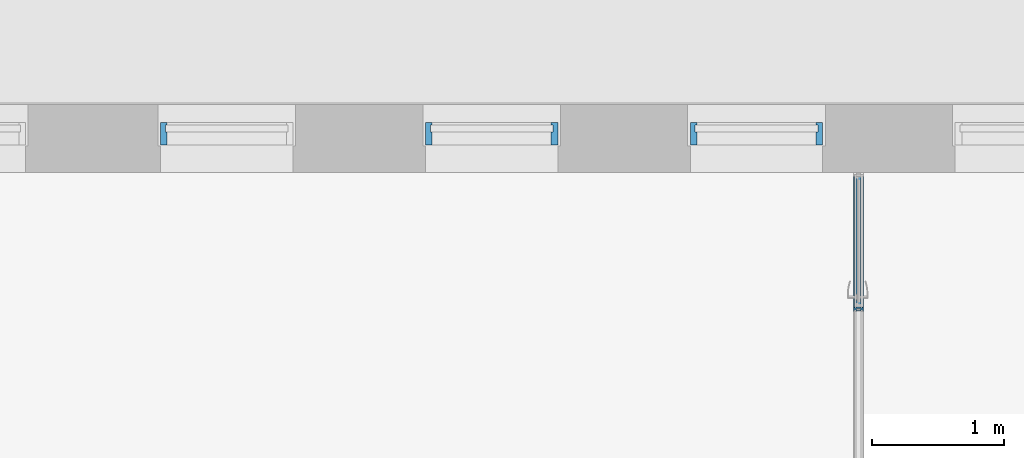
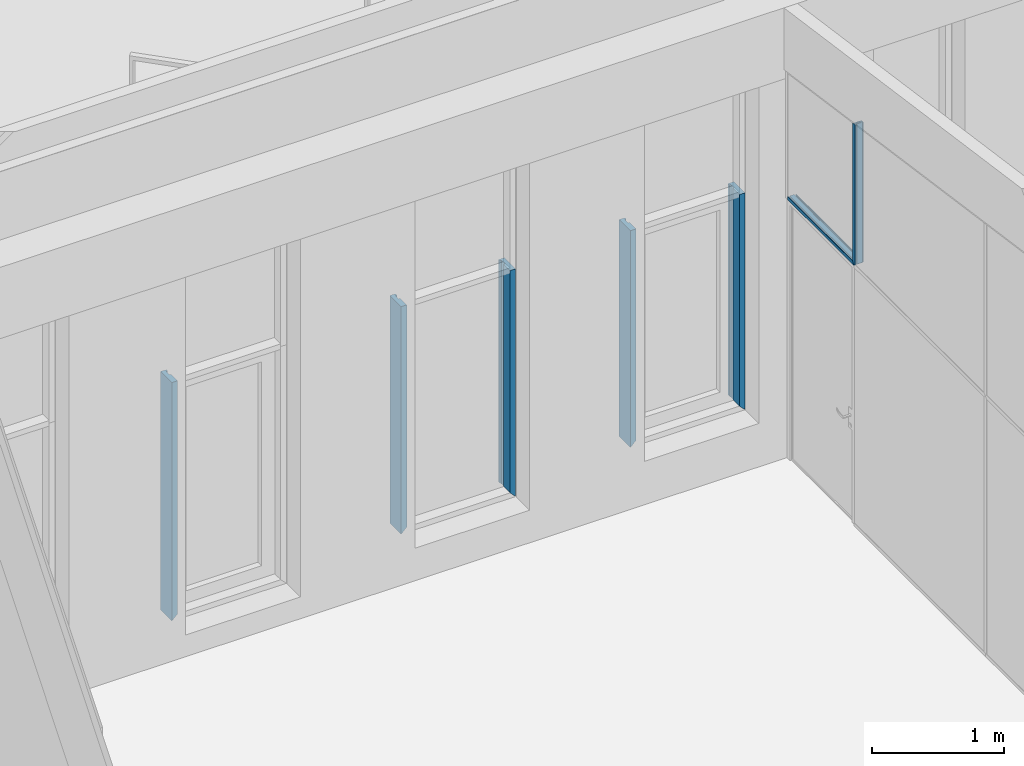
# One storey, part 77 of 246: 7 members, 4 elements without a shape of their own.
"""IFC2X3 building model written with IfcOpenShell, lengths in millimetres."""

from ifc_helpers import new_model, entity, si_unit, converted_unit, derived_unit, money_unit, direction, frame, origin_with_axes, place, context, subcontext, project, spatial, faceted_brep, material, material_list, type_object, element, aggregate, save


model = new_model("IFC2X3")

# Units and contexts
model_context = context("Model", 3, precision=0.01, world=origin_with_axes(), true_north=direction((0.0, 1.0)))
body_context = subcontext(model_context, "Body", "Model", "MODEL_VIEW")
ifc_project = project(units=[si_unit("LENGTHUNIT", "METRE", prefix="MILLI"), si_unit("AREAUNIT", "SQUARE_METRE"), si_unit("VOLUMEUNIT", "CUBIC_METRE"), converted_unit("PLANEANGLEUNIT", "DEGREE", entity("IfcPlaneAngleMeasure", 0.0174532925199), si_unit("PLANEANGLEUNIT", "RADIAN"), dimensions=[0, 0, 0, 0, 0, 0, 0]), si_unit("SOLIDANGLEUNIT", "STERADIAN"), money_unit("EUR"), converted_unit("TIMEUNIT", "Year", entity("IfcTimeMeasure", 31556926.0), si_unit("TIMEUNIT", "SECOND"), dimensions=[0, 0, 1, 0, 0, 0, 0]), si_unit("MASSUNIT", "GRAM", prefix="KILO"), si_unit("THERMODYNAMICTEMPERATUREUNIT", "DEGREE_CELSIUS"), si_unit("LUMINOUSINTENSITYUNIT", "LUMEN"), si_unit("ENERGYUNIT", "JOULE", prefix="MEGA"), derived_unit("THERMALCONDUCTANCEUNIT", [(si_unit("POWERUNIT", "WATT"), 1), (si_unit("LENGTHUNIT", "METRE"), -1), (si_unit("THERMODYNAMICTEMPERATUREUNIT", "KELVIN"), -1)]), derived_unit("SPECIFICHEATCAPACITYUNIT", [(si_unit("ENERGYUNIT", "JOULE"), 1), (si_unit("MASSUNIT", "GRAM", prefix="KILO"), -1), (si_unit("THERMODYNAMICTEMPERATUREUNIT", "KELVIN"), -1)]), derived_unit("MASSDENSITYUNIT", [(si_unit("MASSUNIT", "GRAM", prefix="KILO"), 1), (si_unit("VOLUMEUNIT", "CUBIC_METRE"), -1)])], contexts=[model_context])

# Site, building, storey
site_placement = place(None, origin_with_axes())
site = spatial("IfcSite", under=ifc_project, at=site_placement, Name="L.Koidula tn 11b", CompositionType="ELEMENT")
building_placement = place(site_placement, origin_with_axes())
building = spatial("IfcBuilding", under=site, at=building_placement, Name="Rakvere Riigigümnaasium", CompositionType="ELEMENT")
storey_placement = place(building_placement, origin_with_axes())
storey = spatial("IfcBuildingStorey", under=building, at=storey_placement, Name="1.korrus 0,00", CompositionType="ELEMENT", Elevation=0.0)

# Curtain wall, members
curtain_wall_type = type_object("IfcCurtainWallType", Name="Curtain Wall Type", PredefinedType="NOTDEFINED")
curtain_wall_1_placement = place(storey_placement, frame((32069.763958, 71934.4519938, 400.0), z_axis=(0.0, 0.0, 1.0), x_axis=(1.0, 0.0, 0.0)))
curtain_wall_1 = element("IfcCurtainWall", 1, at=curtain_wall_1_placement, inside=storey, type_object=curtain_wall_type, Name="KLF-08-06")
ifc_material_1 = material(Name="Alumiiniumprofiil (RAL 7021)")
member_type_1 = type_object("IfcMemberType", Name="Boundary Frame 50 x 170", PredefinedType="MULLION")
member_1_placement = place(curtain_wall_1_placement, frame((-500.007691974, 0.0, 2000.00007713), z_axis=(0.0, 0.0, -1.0), x_axis=(1.0, 0.0, 0.0)))
member_1 = element("IfcMember", 2, at=member_1_placement, type_object=member_type_1, material=ifc_material_1, Name="KLF-08-59-Profiilid", ObjectType="MULLION", context=body_context, shape_type="Brep", body=[
    faceted_brep([(37.0, 26.0, 1963.00007713), (50.0, 26.0, 1950.00007713), (50.0, 124.0, 1950.00007713), (0.0, 124.0, 2000.00007713), (0.0, -46.0, 2000.00007713), (50.0, -46.0, 1950.00007713), (50.0, -26.0, 1950.00007713), (37.0, -26.0, 1963.00007713), (37.0, 26.0, -1.78111747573e-07), (50.0, 26.0, -1.78111747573e-07), (50.0, 124.0, -1.78111747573e-07), (0.0, 124.0, -1.78111747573e-07), (0.0, -46.0, -1.78111747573e-07), (50.0, -46.0, -1.78111747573e-07), (50.0, -26.0, -1.78111747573e-07), (37.0, -26.0, -1.78111747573e-07)], [[[0, 1, 2, 3, 4, 5, 6, 7]], [[0, 8, 9, 1]], [[9, 10, 2, 1]], [[10, 11, 3, 2]], [[11, 12, 4, 3]], [[12, 13, 5, 4]], [[6, 5, 13, 14]], [[14, 15, 7, 6]], [[7, 15, 8, 0]], [[8, 15, 14, 13, 12, 11, 10, 9]]]),
])
member_2_placement = place(curtain_wall_1_placement, frame((500.007713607, 0.0, 0.0), z_axis=(-8.89320582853e-09, 0.0, 1.0), x_axis=(-1.0, 0.0, -8.89320582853e-09)))
member_2 = element("IfcMember", 3, at=member_2_placement, type_object=member_type_1, material=ifc_material_1, Name="KLF-08-61-Profiilid", ObjectType="MULLION", context=body_context, shape_type="Brep", body=[
    faceted_brep([(36.9999822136, 26.0, 2000.00007768), (49.9999822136, 26.0, 2000.00007779), (49.9999822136, 124.0, 2000.00007779), (-1.7786412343e-05, 124.0, 2000.00007735), (-1.7786412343e-05, -46.0, 2000.00007735), (49.9999822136, -46.0, 2000.00007779), (49.9999822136, -26.0, 2000.00007779), (36.9999822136, -26.0, 2000.00007768), (36.999999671, 26.0, 37.0000006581), (49.9999995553, 26.0, 50.0000008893), (49.9999995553, 124.0, 50.0000008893), (0.0, 124.0, 0.0), (0.0, -46.0, 0.0), (49.9999995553, -46.0, 50.0000008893), (49.9999995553, -26.0, 50.0000008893), (36.999999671, -26.0, 37.0000006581)], [[[0, 1, 2, 3, 4, 5, 6, 7]], [[0, 8, 9, 1]], [[9, 10, 2, 1]], [[2, 10, 11, 3]], [[3, 11, 12, 4]], [[4, 12, 13, 5]], [[6, 5, 13, 14]], [[14, 15, 7, 6]], [[7, 15, 8, 0]], [[8, 15, 14, 13, 12, 11, 10, 9]]]),
])
aggregate(curtain_wall_1, [member_1, member_2])

# Curtain wall, member
curtain_wall_2_placement = place(storey_placement, frame((28069.5354311, 71934.4519938, 200.0), z_axis=(0.0, 0.0, 1.0), x_axis=(1.0, 0.0, 0.0)))
curtain_wall_2 = element("IfcCurtainWall", 4, at=curtain_wall_2_placement, inside=storey, type_object=curtain_wall_type, Name="KLF-08-04")
member_3_placement = place(curtain_wall_2_placement, frame((-500.000022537, 0.0, 0.0), z_axis=(0.0, 0.0, 1.0), x_axis=(-1.0, 0.0, 0.0)))
member_3 = element("IfcMember", 5, at=member_3_placement, type_object=member_type_1, material=ifc_material_1, Name="KLF-08-48-Profiilid", ObjectType="MULLION", context=body_context, shape_type="Brep", body=[
    faceted_brep([(-37.0, 26.0, 2200.00007713), (-37.0, -26.0, 2200.00007713), (-50.0, -26.0, 2200.00007713), (-50.0, -46.0, 2200.00007713), (0.0, -46.0, 2200.00007713), (0.0, 124.0, 2200.00007713), (-50.0, 124.0, 2200.00007713), (-50.0, 26.0, 2200.00007713), (-37.0, 26.0, 37.0), (-37.0, -26.0, 37.0), (-50.0, -26.0, 50.0), (-50.0, -46.0, 50.0), (0.0, -46.0, 0.0), (0.0, 124.0, 0.0), (-50.0, 124.0, 50.0), (-50.0, 26.0, 50.0)], [[[0, 1, 2, 3, 4, 5, 6, 7]], [[1, 0, 8, 9]], [[10, 2, 1, 9]], [[2, 10, 11, 3]], [[4, 3, 11, 12]], [[5, 4, 12, 13]], [[6, 5, 13, 14]], [[15, 7, 6, 14]], [[0, 7, 15, 8]], [[8, 15, 14, 13, 12, 11, 10, 9]]]),
])
aggregate(curtain_wall_2, [member_3])

# Curtain wall, members
curtain_wall_3_placement = place(storey_placement, frame((30069.5242165, 71934.4519938, 300.0), z_axis=(0.0, 0.0, 1.0), x_axis=(1.0, 0.0, 0.0)))
curtain_wall_3 = element("IfcCurtainWall", 6, at=curtain_wall_3_placement, inside=storey, type_object=curtain_wall_type, Name="KLF-08-05")
member_4_placement = place(curtain_wall_3_placement, frame((-499.988788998, 0.0, 0.0), z_axis=(0.0, 0.0, 1.0), x_axis=(-1.0, 0.0, 0.0)))
member_4 = element("IfcMember", 7, at=member_4_placement, type_object=member_type_1, material=ifc_material_1, Name="KLF-08-85-Profiilid", ObjectType="MULLION", context=body_context, shape_type="Brep", body=[
    faceted_brep([(-37.0, 26.0, 2100.00007713), (-37.0, -26.0, 2100.00007713), (-50.0, -26.0, 2100.00007713), (-50.0, -46.0, 2100.00007713), (0.0, -46.0, 2100.00007713), (0.0, 124.0, 2100.00007713), (-50.0, 124.0, 2100.00007713), (-50.0, 26.0, 2100.00007713), (-37.0, 26.0, 37.0), (-37.0, -26.0, 37.0), (-50.0, -26.0, 50.0), (-50.0, -46.0, 50.0), (0.0, -46.0, 0.0), (0.0, 124.0, 0.0), (-50.0, 124.0, 50.0), (-50.0, 26.0, 50.0)], [[[0, 1, 2, 3, 4, 5, 6, 7]], [[1, 0, 8, 9]], [[10, 2, 1, 9]], [[2, 10, 11, 3]], [[4, 3, 11, 12]], [[5, 4, 12, 13]], [[6, 5, 13, 14]], [[15, 7, 6, 14]], [[0, 7, 15, 8]], [[8, 15, 14, 13, 12, 11, 10, 9]]]),
])
member_5_placement = place(curtain_wall_3_placement, frame((499.98878204, 0.0, 0.0), z_axis=(3.31341122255e-09, 0.0, 1.0), x_axis=(-1.0, 0.0, 3.31341122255e-09)))
member_5 = element("IfcMember", 8, at=member_5_placement, type_object=member_type_1, material=ifc_material_1, Name="KLF-08-81-Profiilid", ObjectType="MULLION", context=body_context, shape_type="Brep", body=[
    faceted_brep([(37.0000069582, 26.0, 2100.00007709), (50.0000069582, 26.0, 2100.00007704), (50.0000069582, 124.0, 2100.00007704), (6.9581638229e-06, 124.0, 2100.00007721), (6.9581638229e-06, -46.0, 2100.00007721), (50.0000069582, -46.0, 2100.00007704), (50.0000069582, -26.0, 2100.00007704), (37.0000069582, -26.0, 2100.00007709), (37.0000001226, 26.0, 36.9999997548), (50.0000001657, 26.0, 49.9999996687), (50.0000001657, 124.0, 49.9999996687), (0.0, 124.0, 0.0), (0.0, -46.0, 0.0), (50.0000001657, -46.0, 49.9999996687), (50.0000001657, -26.0, 49.9999996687), (37.0000001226, -26.0, 36.9999997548)], [[[0, 1, 2, 3, 4, 5, 6, 7]], [[0, 8, 9, 1]], [[9, 10, 2, 1]], [[2, 10, 11, 3]], [[3, 11, 12, 4]], [[4, 12, 13, 5]], [[6, 5, 13, 14]], [[14, 15, 7, 6]], [[7, 15, 8, 0]], [[8, 15, 14, 13, 12, 11, 10, 9]]]),
])
aggregate(curtain_wall_3, [member_4, member_5])

curtain_wall_4_placement = place(storey_placement, frame((32835.0202258, 67589.2016838, 0.0), z_axis=(0.0, 0.0, 1.0), x_axis=(1.0, 0.0, 0.0)))
curtain_wall_4 = element("IfcCurtainWall", 9, at=curtain_wall_4_placement, inside=storey, type_object=curtain_wall_type, Name="SKLF-02")
ifc_material_2 = material(Name="Klaasvill")
ifc_material_3 = material(Name="Teras RAL7012")
ifc_material_list = material_list([ifc_material_2, ifc_material_3])
member_type_2 = type_object("IfcMemberType", Name="Siseklaasfassaad-Servaprofiil-Doubleline30 30 x 42", PredefinedType="MULLION")
member_6_placement = place(curtain_wall_4_placement, frame((0.0, 4011.25, 2400.0), z_axis=(0.0, -1.0, 0.0), x_axis=(0.0, 0.0, 1.0)))
member_6 = element("IfcMember", 10, at=member_6_placement, type_object=member_type_2, material=ifc_material_list, Name="Frame-Siseklaasf-111", ObjectType="MULLION", context=body_context, shape_type="Brep", body=[
    faceted_brep([(13.8499999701, 15.000000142, 30.0000193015), (13.8499999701, 15.000000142, 1022.15166282), (7.49999990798, 15.000000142, 1025.74999796), (7.49999990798, 15.000000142, 30.0000193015), (13.8499999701, 29.0161444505, 30.0000193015), (13.8499999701, 29.0161444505, 1022.15166282), (7.49999990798, 29.0161444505, 1025.74999796), (7.49999990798, 29.0161444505, 30.0000193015)], [[[0, 1, 2, 3]], [[4, 5, 1, 0]], [[2, 1, 5, 6]], [[3, 2, 6, 7]], [[3, 7, 4, 0]], [[7, 6, 5, 4]]]),
    faceted_brep([(25.004489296, 27.0307503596, 30.0000193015), (25.004489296, 27.0307503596, 1015.83078243), (24.987414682, 29.0161444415, 1015.84045805), (24.987414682, 29.0161444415, 30.0000193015), (25.742237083, 26.2930025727, 30.0000193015), (25.742237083, 26.2930025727, 1015.41272514), (26.7500193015, 26.0229681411, 1014.84164827), (27.75780152, 26.2930025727, 1014.2705714), (28.4955493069, 27.0307503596, 1013.85251411), (28.7655837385, 28.0385325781, 1013.69949453), (28.5126239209, 29.0161444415, 1013.8428385), (28.5126239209, 29.0161444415, 30.0000193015), (28.7655837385, 28.0385325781, 30.0000193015), (28.4955493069, 27.0307503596, 30.0000193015), (27.75780152, 26.2930025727, 30.0000193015), (26.7500193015, 26.0229681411, 30.0000193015)], [[[0, 1, 2, 3]], [[4, 5, 1, 0]], [[2, 1, 5, 6, 7, 8, 9, 10]], [[3, 2, 10, 11]], [[3, 11, 12, 13, 14, 15, 4, 0]], [[15, 6, 5, 4]], [[14, 7, 6, 15]], [[13, 8, 7, 14]], [[12, 9, 8, 13]], [[11, 10, 9, 12]]]),
    faceted_brep([(7.49999990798, -39.0161445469, 30.0000193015), (7.49999990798, -39.0161445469, 1025.74999796), (7.49999990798, -24.9999997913, 1025.74999796), (7.49999990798, -24.9999997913, 30.0000193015), (13.8499999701, -39.0161445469, 30.0000193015), (13.8499999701, -39.0161445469, 1022.15166282), (13.8499999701, -24.9999997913, 1022.15166282), (13.8499999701, -24.9999997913, 30.0000193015)], [[[0, 1, 2, 3]], [[4, 5, 1, 0]], [[2, 1, 5, 6]], [[3, 2, 6, 7]], [[3, 7, 4, 0]], [[7, 6, 5, 4]]]),
    faceted_brep([(24.987414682, -39.0161444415, 30.0000193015), (24.987414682, -39.0161444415, 1015.84045805), (25.004489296, -37.0307503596, 1015.83078243), (25.004489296, -37.0307503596, 30.0000193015), (28.5126239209, -39.0161444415, 30.0000193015), (28.5126239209, -39.0161444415, 1013.8428385), (28.7655837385, -38.0385325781, 1013.69949453), (28.4955493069, -37.0307503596, 1013.85251411), (27.75780152, -36.2930025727, 1014.2705714), (26.7500193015, -36.0229681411, 1014.84164827), (25.742237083, -36.2930025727, 1015.41272514), (25.742237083, -36.2930025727, 30.0000193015), (26.7500193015, -36.0229681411, 30.0000193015), (27.75780152, -36.2930025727, 30.0000193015), (28.4955493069, -37.0307503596, 30.0000193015), (28.7655837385, -38.0385325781, 30.0000193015)], [[[0, 1, 2, 3]], [[4, 5, 1, 0]], [[2, 1, 5, 6, 7, 8, 9, 10]], [[3, 2, 10, 11]], [[3, 11, 12, 13, 14, 15, 4, 0]], [[15, 6, 5, 4]], [[14, 7, 6, 15]], [[13, 8, 7, 14]], [[12, 9, 8, 13]], [[11, 10, 9, 12]]]),
    faceted_brep([(29.5999996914, -22.0000000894, 30.0000193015), (29.5999996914, -22.0000000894, 1013.22665859), (0.0, -22.0000000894, 1030.0), (0.0, -22.0000000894, 30.0000193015), (29.5999996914, 12.0000000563, 30.0000193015), (29.5999996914, 12.0000000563, 1013.22665859), (0.0, 12.0000000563, 1030.0), (1.9999999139, 10.0000001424, 1028.86666616), (18.7999996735, 10.0000001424, 1019.34666161), (18.7999996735, -20.0000001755, 1019.34666161), (1.9999999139, -20.0000001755, 1028.86666616), (0.0, 12.0000000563, 30.0000193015), (1.9999999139, 10.0000001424, 30.0000193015), (1.9999999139, -20.0000001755, 30.0000193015), (18.7999996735, -20.0000001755, 30.0000193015), (18.7999996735, 10.0000001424, 30.0000193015)], [[[0, 1, 2, 3]], [[4, 5, 1, 0]], [[2, 1, 5, 6], [7, 8, 9, 10]], [[3, 2, 6, 11]], [[3, 11, 4, 0], [12, 13, 14, 15]], [[11, 6, 5, 4]], [[15, 8, 7, 12]], [[14, 9, 8, 15]], [[13, 10, 9, 14]], [[12, 7, 10, 13]]]),
    faceted_brep([(29.5999996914, 12.0000000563, 30.0000193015), (29.5999996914, 12.0000000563, 1013.22665859), (0.0, 12.0, 1030.0), (0.0, 12.0, 30.0000193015), (30.0000193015, 12.0, 30.0000193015), (30.0000193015, 12.0, 1012.9999807), (30.0000193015, 15.0, 1012.9999807), (13.8499999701, 15.000000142, 1022.15166282), (7.49999999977, 15.0, 1025.74999791), (7.49999999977, 29.0161444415, 1025.74999791), (13.8499999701, 29.0161444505, 1022.15166282), (24.987414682, 29.0161444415, 1015.84045805), (28.5126239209, 29.0161444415, 1013.8428385), (30.0000193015, 29.0161444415, 1012.9999807), (30.0000193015, 32.0, 1012.9999807), (0.0, 32.0, 1030.0), (0.0, 32.0, 30.0000193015), (30.0000193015, 32.0, 30.0000193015), (30.0000193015, 29.0161444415, 30.0000193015), (28.5126239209, 29.0161444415, 30.0000193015), (24.987414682, 29.0161444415, 30.0000193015), (13.8499999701, 29.0161444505, 30.0000193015), (7.49999999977, 29.0161444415, 30.0000193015), (7.49999999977, 15.0, 30.0000193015), (13.8499999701, 15.000000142, 30.0000193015), (30.0000193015, 15.0, 30.0000193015)], [[[0, 1, 2, 3]], [[4, 5, 1, 0]], [[2, 1, 5, 6, 7, 8, 9, 10, 11, 12, 13, 14, 15]], [[3, 2, 15, 16]], [[3, 16, 17, 18, 19, 20, 21, 22, 23, 24, 25, 4, 0]], [[25, 6, 5, 4]], [[24, 7, 6, 25]], [[23, 8, 7, 24]], [[22, 9, 8, 23]], [[21, 10, 9, 22]], [[20, 11, 10, 21]], [[19, 12, 11, 20]], [[18, 13, 12, 19]], [[17, 14, 13, 18]], [[16, 15, 14, 17]]]),
    faceted_brep([(0.0, -42.0, 30.0000193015), (0.0, -42.0, 1030.0), (0.0, -22.0, 1030.0), (0.0, -22.0, 30.0000193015), (30.0000193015, -42.0, 30.0000193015), (30.0000193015, -42.0, 1012.9999807), (30.0000193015, -39.0161444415, 1012.9999807), (28.5126239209, -39.0161444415, 1013.8428385), (24.987414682, -39.0161444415, 1015.84045805), (13.8499999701, -39.0161445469, 1022.15166282), (7.49999999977, -39.0161444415, 1025.74999791), (7.49999999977, -25.0, 1025.74999791), (13.8499999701, -24.9999997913, 1022.15166282), (30.0000193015, -25.0, 1012.9999807), (30.0000193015, -22.0, 1012.9999807), (29.5999996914, -22.0000000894, 1013.22665859), (29.5999996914, -22.0000000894, 30.0000193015), (30.0000193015, -22.0, 30.0000193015), (30.0000193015, -25.0, 30.0000193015), (13.8499999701, -24.9999997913, 30.0000193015), (7.49999999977, -25.0, 30.0000193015), (7.49999999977, -39.0161444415, 30.0000193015), (13.8499999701, -39.0161445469, 30.0000193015), (24.987414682, -39.0161444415, 30.0000193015), (28.5126239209, -39.0161444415, 30.0000193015), (30.0000193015, -39.0161444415, 30.0000193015)], [[[0, 1, 2, 3]], [[4, 5, 1, 0]], [[2, 1, 5, 6, 7, 8, 9, 10, 11, 12, 13, 14, 15]], [[3, 2, 15, 16]], [[3, 16, 17, 18, 19, 20, 21, 22, 23, 24, 25, 4, 0]], [[25, 6, 5, 4]], [[24, 7, 6, 25]], [[23, 8, 7, 24]], [[22, 9, 8, 23]], [[21, 10, 9, 22]], [[20, 11, 10, 21]], [[19, 12, 11, 20]], [[18, 13, 12, 19]], [[17, 14, 13, 18]], [[16, 15, 14, 17]]]),
])
member_type_3 = type_object("IfcMemberType", Name="Siseklaasfassaad-Vaheprofiil-Doubleline30 34 x 42", PredefinedType="MULLION")
member_7_placement = place(curtain_wall_4_placement, frame((0.0, 2981.25, 2400.0), z_axis=(0.0, 0.0, 1.0), x_axis=(0.0, 1.0, 0.0)))
member_7 = element("IfcMember", 11, at=member_7_placement, type_object=member_type_3, material=ifc_material_list, Name="Frame-Siseklaasf-226", ObjectType="MULLION", context=body_context, shape_type="Brep", body=[
    faceted_brep([(15.4955493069, 27.0307503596, 27.3450735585), (15.7655837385, 28.0385325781, 27.8216046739), (15.7655837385, 28.0385325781, 1304.1102888), (15.4955493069, 27.0307503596, 1304.14872941), (15.5126239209, 29.0161444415, 27.3752052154), (14.75780152, 26.2930025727, 26.0431663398), (13.7500193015, 26.0229681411, 24.2647280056), (12.742237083, 26.2930025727, 22.4862896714), (12.004489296, 27.0307503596, 21.1843824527), (11.987414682, 29.0161444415, 21.1542507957), (15.5126239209, 29.0161444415, 1304.14629876), (11.987414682, 29.0161444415, 1304.64812813), (12.004489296, 27.0307503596, 1304.64569749), (12.742237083, 26.2930025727, 1304.54067577), (13.7500193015, 26.0229681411, 1304.39721345), (14.75780152, 26.2930025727, 1304.25375112)], [[[0, 1, 2, 3]], [[4, 1, 0, 5, 6, 7, 8, 9]], [[1, 4, 10, 2]], [[3, 2, 10, 11, 12, 13, 14, 15]], [[5, 0, 3, 15]], [[6, 5, 15, 14]], [[7, 6, 14, 13]], [[8, 7, 13, 12]], [[9, 8, 12, 11]], [[4, 9, 11, 10]]]),
    faceted_brep([(11.987414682, -39.0161444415, 21.1542507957), (15.5126239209, -39.0161444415, 27.3752052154), (15.5126239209, -39.0161444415, 1304.14629876), (11.987414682, -39.0161444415, 1304.64812813), (15.4955493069, -37.0307503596, 27.3450735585), (11.7344548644, -38.0385325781, 20.7078513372), (12.004489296, -37.0307503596, 21.1843824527), (12.742237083, -36.2930025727, 22.4862896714), (13.7500193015, -36.0229681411, 24.2647280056), (14.75780152, -36.2930025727, 26.0431663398), (15.4955493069, -37.0307503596, 1304.14872941), (12.004489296, -37.0307503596, 1304.64569749), (11.7344548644, -38.0385325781, 1304.6841381), (14.75780152, -36.2930025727, 1304.25375112), (13.7500193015, -36.0229681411, 1304.39721345), (12.742237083, -36.2930025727, 1304.54067577)], [[[0, 1, 2, 3]], [[4, 1, 0, 5, 6, 7, 8, 9]], [[1, 4, 10, 2]], [[11, 12, 3, 2, 10, 13, 14, 15]], [[5, 0, 3, 12]], [[6, 5, 12, 11]], [[7, 6, 11, 15]], [[8, 7, 15, 14]], [[9, 8, 14, 13]], [[4, 9, 13, 10]]]),
    faceted_brep([(-12.004489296, 27.0307503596, 12.004489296), (-11.7344548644, 28.0385325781, 11.7344548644), (-11.7344548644, 28.0385325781, 1308.02504281), (-12.004489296, 27.0307503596, 1308.06348343), (-11.987414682, 29.0161444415, 11.987414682), (-12.742237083, 26.2930025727, 12.742237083), (-13.7500193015, 26.0229681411, 13.7500193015), (-14.75780152, 26.2930025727, 14.75780152), (-15.4955493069, 27.0307503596, 15.4955493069), (-15.7655837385, 28.0385325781, 15.7655837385), (-11.987414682, 29.0161444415, 1308.06105278), (-12.742237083, 26.2930025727, 1308.16850514), (-15.7655837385, 28.0385325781, 1308.59889211), (-15.4955493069, 27.0307503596, 1308.5604515), (-14.75780152, 26.2930025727, 1308.45542979), (-13.7500193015, 26.0229681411, 1308.31196746)], [[[0, 1, 2, 3]], [[4, 1, 0, 5, 6, 7, 8, 9]], [[1, 4, 10, 2]], [[11, 3, 2, 10, 12, 13, 14, 15]], [[5, 0, 3, 11]], [[6, 5, 11, 15]], [[7, 6, 15, 14]], [[8, 7, 14, 13]], [[9, 8, 13, 12]], [[4, 9, 12, 10]]]),
    faceted_brep([(-11.987414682, -39.0161444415, 11.987414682), (-11.7344548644, -38.0385325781, 11.7344548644), (-11.7344548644, -38.0385325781, 1308.02504281), (-11.987414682, -39.0161444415, 1308.06105278), (-12.004489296, -37.0307503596, 12.004489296), (-15.5126239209, -39.0161444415, 15.5126239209), (-15.4955493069, -37.0307503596, 15.4955493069), (-14.75780152, -36.2930025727, 14.75780152), (-13.7500193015, -36.0229681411, 13.7500193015), (-12.742237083, -36.2930025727, 12.742237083), (-12.004489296, -37.0307503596, 1308.06348343), (-12.742237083, -36.2930025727, 1308.16850514), (-13.7500193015, -36.0229681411, 1308.31196746), (-14.75780152, -36.2930025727, 1308.45542979), (-15.4955493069, -37.0307503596, 1308.5604515), (-15.5126239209, -39.0161444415, 1308.56288215)], [[[0, 1, 2, 3]], [[4, 1, 0, 5, 6, 7, 8, 9]], [[1, 4, 10, 2]], [[11, 12, 13, 14, 15, 3, 2, 10]], [[5, 0, 3, 15]], [[6, 5, 15, 14]], [[7, 6, 14, 13]], [[8, 7, 13, 12]], [[9, 8, 12, 11]], [[4, 9, 11, 10]]]),
    faceted_brep([(-12.8000002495, 10.0000001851, 12.8000002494), (0.0, 10.0000001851, 0.0), (4.0000003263, 10.0000001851, 7.05882063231), (4.0000003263, 10.0000001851, 1305.78517244), (-12.8000002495, 10.0000001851, 1308.17672798), (-14.8000001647, 12.0000001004, 14.8000001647), (0.0, 12.0000001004, 0.0), (-12.8000002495, -20.0000001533, 12.8000002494), (0.0, -20.0000001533, 0.0), (0.0, -22.0000000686, 0.0), (-14.8000001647, -22.0000000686, 14.8000001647), (14.8000003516, 12.0000001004, 26.1176348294), (14.8000003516, -22.0000000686, 26.1176348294), (4.0000003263, -20.0000001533, 7.05882063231), (4.0000003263, -20.0000001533, 1305.78517244), (14.8000003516, 12.0000001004, 1304.24774393), (-3.08905781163e-07, 12.0000001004, 1306.3545905), (-14.8000001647, 12.0000001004, 1308.46143696), (-14.8000001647, -22.0000000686, 1308.46143696), (-3.08905781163e-07, -22.0000000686, 1306.3545905), (14.8000003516, -22.0000000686, 1304.24774393), (-12.8000002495, -20.0000001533, 1308.17672798)], [[[0, 1, 2, 3, 4]], [[5, 6, 1, 0, 7, 8, 9, 10]], [[6, 11, 12, 9, 8, 13, 2, 1]], [[2, 13, 14, 3]], [[15, 16, 17, 18, 19, 20], [3, 14, 21, 4]], [[7, 0, 4, 21]], [[6, 5, 17, 16]], [[8, 7, 21, 14, 13]], [[10, 9, 19, 18]], [[5, 10, 18, 17]], [[11, 6, 16, 15]], [[12, 11, 15, 20]], [[9, 12, 20, 19]]]),
    faceted_brep([(17.0000193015, 29.0161446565, 30.0000193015), (17.0000193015, 32.0000000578, 30.0000193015), (17.0000193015, 32.0000000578, 1303.93456135), (17.0000193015, 29.0161446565, 1303.93456135), (0.0, 32.0000000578, 0.0), (15.5126239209, 29.0161444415, 27.3752052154), (11.987414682, 29.0161444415, 21.1542507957), (7.50000002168, 29.0161446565, 13.2352876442), (7.50000002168, 15.0000000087, 13.2352876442), (17.0000193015, 15.0000000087, 30.0000193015), (17.0000193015, 12.0, 30.0000193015), (14.8000003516, 12.0000001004, 26.1176348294), (0.0, 12.0, 0.0), (0.0, 32.0000000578, 1306.35459046), (15.5126239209, 29.0161444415, 1304.14629876), (0.0, 12.0, 1306.35459046), (14.8000003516, 12.0000001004, 1304.24774393), (17.0000193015, 12.0, 1303.93456135), (17.0000193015, 15.0000000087, 1303.93456135), (7.50000002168, 15.0000000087, 1305.28693177), (7.50000002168, 29.0161446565, 1305.28693177), (11.987414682, 29.0161444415, 1304.64812813)], [[[0, 1, 2, 3]], [[4, 1, 0, 5, 6, 7, 8, 9, 10, 11, 12]], [[1, 4, 13, 2]], [[14, 3, 2, 13, 15, 16, 17, 18, 19, 20, 21]], [[5, 0, 3, 14]], [[6, 5, 14, 21]], [[7, 6, 21, 20]], [[8, 7, 20, 19]], [[9, 8, 19, 18]], [[10, 9, 18, 17]], [[11, 10, 17, 16]], [[12, 11, 16, 15]], [[4, 12, 15, 13]]]),
    faceted_brep([(17.0000193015, -24.9999999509, 30.0000193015), (17.0000193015, -21.9999999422, 30.0000193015), (17.0000193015, -21.9999999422, 1303.93456135), (17.0000193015, -24.9999999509, 1303.93456135), (14.8000003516, -22.0000000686, 26.1176348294), (7.50000002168, -24.9999999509, 13.2352876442), (7.50000002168, -39.0161445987, 13.2352876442), (11.987414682, -39.0161444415, 21.1542507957), (15.5126239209, -39.0161444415, 27.3752052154), (17.0000193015, -39.0161445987, 30.0000193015), (17.0000193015, -42.0, 30.0000193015), (0.0, -42.0, 0.0), (0.0, -21.9999999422, 0.0), (14.8000003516, -22.0000000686, 1304.24774393), (0.0, -21.9999999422, 1306.35459046), (0.0, -42.0, 1306.35459046), (17.0000193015, -42.0, 1303.93456135), (17.0000193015, -39.0161445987, 1303.93456135), (15.5126239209, -39.0161444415, 1304.14629876), (11.987414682, -39.0161444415, 1304.64812813), (7.50000002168, -39.0161445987, 1305.28693177), (7.50000002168, -24.9999999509, 1305.28693177)], [[[0, 1, 2, 3]], [[4, 1, 0, 5, 6, 7, 8, 9, 10, 11, 12]], [[1, 4, 13, 2]], [[3, 2, 13, 14, 15, 16, 17, 18, 19, 20, 21]], [[5, 0, 3, 21]], [[6, 5, 21, 20]], [[7, 6, 20, 19]], [[8, 7, 19, 18]], [[9, 8, 18, 17]], [[10, 9, 17, 16]], [[11, 10, 16, 15]], [[12, 11, 15, 14]], [[4, 12, 14, 13]]]),
    faceted_brep([(0.0, 12.0, 0.0), (0.0, 32.0, 0.0), (0.0, 32.0, 1306.35459046), (0.0, 12.0, 1306.35459046), (-17.0000193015, 32.0, 17.0000193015), (-14.8000001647, 12.0000001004, 14.8000001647), (-17.0000193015, 12.0, 17.0000193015), (-17.0000193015, 15.0, 17.0000193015), (-7.49999999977, 15.0, 7.49999999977), (-7.49999999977, 29.0161444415, 7.49999999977), (-11.987414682, 29.0161444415, 11.987414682), (-15.5126239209, 29.0161444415, 15.5126239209), (-17.0000193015, 29.0161444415, 17.0000193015), (-17.0000193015, 32.0, 1308.77461956), (-17.0000193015, 15.0, 1308.77461956), (-17.0000193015, 12.0, 1308.77461956), (-14.8000001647, 12.0000001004, 1308.46143696), (-17.0000193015, 29.0161444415, 1308.77461956), (-15.5126239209, 29.0161444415, 1308.56288215), (-11.987414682, 29.0161444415, 1308.06105278), (-7.49999999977, 29.0161444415, 1307.42224914), (-7.49999999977, 15.0, 1307.42224914)], [[[0, 1, 2, 3]], [[4, 1, 0, 5, 6, 7, 8, 9, 10, 11, 12]], [[1, 4, 13, 2]], [[14, 15, 16, 3, 2, 13, 17, 18, 19, 20, 21]], [[5, 0, 3, 16]], [[6, 5, 16, 15]], [[7, 6, 15, 14]], [[8, 7, 14, 21]], [[9, 8, 21, 20]], [[10, 9, 20, 19]], [[11, 10, 19, 18]], [[12, 11, 18, 17]], [[4, 12, 17, 13]]]),
    faceted_brep([(0.0, -42.0, 0.0), (0.0, -22.0, 0.0), (0.0, -22.0, 1306.35459046), (0.0, -42.0, 1306.35459046), (-14.8000001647, -22.0000000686, 14.8000001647), (-17.0000193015, -42.0, 17.0000193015), (-17.0000193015, -39.0161444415, 17.0000193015), (-15.5126239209, -39.0161444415, 15.5126239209), (-11.987414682, -39.0161444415, 11.987414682), (-7.49999999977, -39.0161444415, 7.49999999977), (-7.49999999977, -25.0, 7.49999999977), (-17.0000193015, -25.0, 17.0000193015), (-17.0000193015, -22.0, 17.0000193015), (-14.8000001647, -22.0000000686, 1308.46143696), (-17.0000193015, -39.0161444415, 1308.77461956), (-17.0000193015, -42.0, 1308.77461956), (-17.0000193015, -22.0, 1308.77461956), (-17.0000193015, -25.0, 1308.77461956), (-7.49999999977, -25.0, 1307.42224914), (-7.49999999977, -39.0161444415, 1307.42224914), (-11.987414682, -39.0161444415, 1308.06105278), (-15.5126239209, -39.0161444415, 1308.56288215)], [[[0, 1, 2, 3]], [[4, 1, 0, 5, 6, 7, 8, 9, 10, 11, 12]], [[1, 4, 13, 2]], [[14, 15, 3, 2, 13, 16, 17, 18, 19, 20, 21]], [[5, 0, 3, 15]], [[6, 5, 15, 14]], [[7, 6, 14, 21]], [[8, 7, 21, 20]], [[9, 8, 20, 19]], [[10, 9, 19, 18]], [[11, 10, 18, 17]], [[12, 11, 17, 16]], [[4, 12, 16, 13]]]),
])
aggregate(curtain_wall_4, [member_6, member_7])

save(model, "model.ifc")
